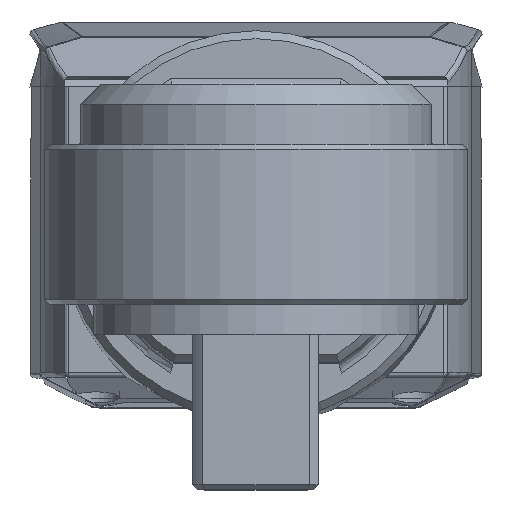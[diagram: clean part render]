
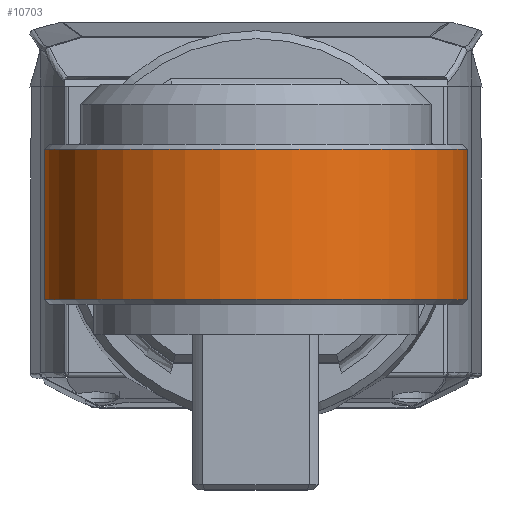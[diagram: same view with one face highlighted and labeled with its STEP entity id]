
A CAD part, top view. The second image highlights one B-rep face of the part: STEP entity #10703.
In plain terms, the highlighted cylindrical face has radius 21.176 mm (diameter 42.351 mm), a partial arc.
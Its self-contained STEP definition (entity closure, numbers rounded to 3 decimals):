
#10107=CARTESIAN_POINT('',(0.,10.05,422.));
#10108=DIRECTION('',(0.,-1.,0.));
#10109=DIRECTION('',(0.956,0.,-0.292));
#10110=AXIS2_PLACEMENT_3D('',#10107,#10108,#10109);
#10112=DIRECTION('',(0.,1.,0.));
#10113=VECTOR('',#10112,15.);
#10114=CARTESIAN_POINT('',(-20.25,10.05,
415.809));
#10115=LINE('',#10114,#10113);
#10116=CARTESIAN_POINT('',(0.,25.05,422.));
#10117=DIRECTION('',(0.,1.,0.));
#10118=DIRECTION('',(-0.956,0.,-0.292));
#10119=AXIS2_PLACEMENT_3D('',#10116,#10117,#10118);
#10125=DIRECTION('',(0.,1.,0.));
#10126=VECTOR('',#10125,15.);
#10127=CARTESIAN_POINT('',(20.25,10.05,415.809));
#10128=LINE('',#10127,#10126);
#10249=CARTESIAN_POINT('',(-20.25,10.05,
415.809));
#10250=VERTEX_POINT('',#10249);
#10255=CARTESIAN_POINT('',(20.25,10.05,415.809));
#10256=VERTEX_POINT('',#10255);
#10265=CARTESIAN_POINT('',(20.25,25.05,415.809));
#10266=VERTEX_POINT('',#10265);
#10271=CARTESIAN_POINT('',(-20.25,25.05,
415.809));
#10272=VERTEX_POINT('',#10271);
#10689=CARTESIAN_POINT('',(0.,9.55,422.));
#10690=DIRECTION('',(0.,-1.,0.));
#10691=DIRECTION('',(1.,0.,0.));
#10692=AXIS2_PLACEMENT_3D('',#10689,#10690,#10691);
#10693=CYLINDRICAL_SURFACE('',#10692,21.176);
#10695=ORIENTED_EDGE('',*,*,#10694,.T.);
#10696=ORIENTED_EDGE('',*,*,#10684,.T.);
#10698=ORIENTED_EDGE('',*,*,#10697,.T.);
#10700=ORIENTED_EDGE('',*,*,#10699,.F.);
#10701=EDGE_LOOP('',(#10695,#10696,#10698,#10700));
#10702=FACE_OUTER_BOUND('',#10701,.F.);
#10111=CIRCLE('',#10110,21.176);
#10120=CIRCLE('',#10119,21.176);
#10684=EDGE_CURVE('',#10250,#10272,#10115,.T.);
#10694=EDGE_CURVE('',#10256,#10250,#10111,.T.);
#10697=EDGE_CURVE('',#10272,#10266,#10120,.T.);
#10699=EDGE_CURVE('',#10256,#10266,#10128,.T.);
#10703=ADVANCED_FACE('',(#10702),#10693,.T.);
